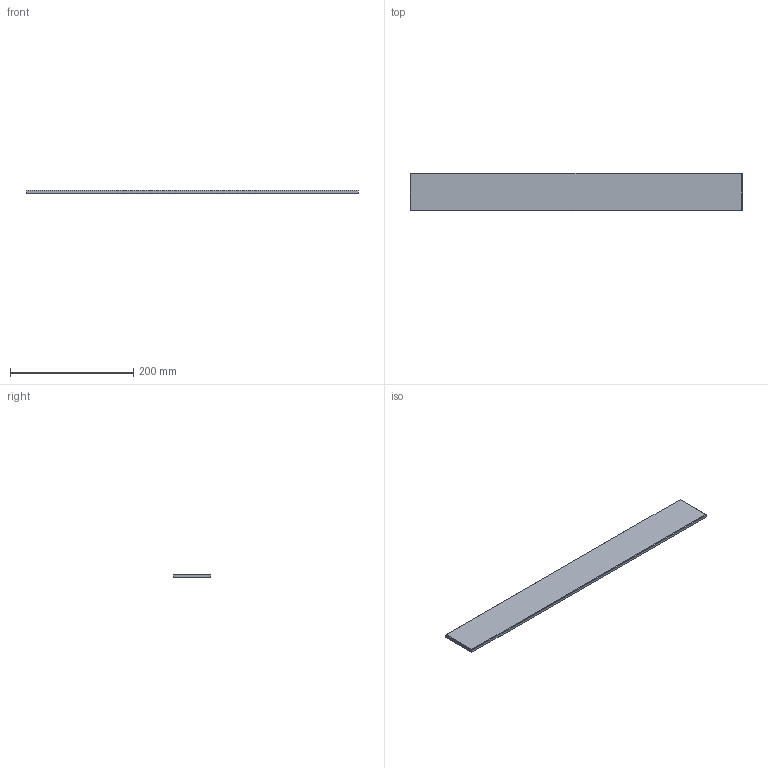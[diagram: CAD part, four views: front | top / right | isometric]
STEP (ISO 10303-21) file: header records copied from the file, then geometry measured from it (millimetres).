
FILE_DESCRIPTION((''),'2;1');
FILE_NAME('238468-HI','2023-01-30T08:23:32',('1ke04'),('Kesseboehmer'),'CREO PARAMETRIC BY PTC INC, 2020414','CREO PARAMETRIC BY PTC INC, 2020414','');
FILE_SCHEMA(('AUTOMOTIVE_DESIGN { 1 0 10303 214 1 1 1 1 }'));
Length unit declared in the file: millimetre
Products named in the file (1): 238468-HI
Bounding box: 539 x 61 x 6 mm (x, y, z)
Volume: 196076.7 mm3; surface area: 71548.8 mm2
Topology: 1 solids, 1 shells, 14 faces, 28 edges, 16 vertices
Faces by surface type: plane 14
Entity records: 966 total; most frequent: COLOUR_RGB 194, DIRECTION 81, CARTESIAN_POINT 76, ORIENTED_EDGE 56, PROPERTY_DEFINITION 39, REPRESENTATION 38, PROPERTY_DEFINITION_REPRESENTATION 38, PRESENTATION_STYLE_ASSIGNMENT 32
